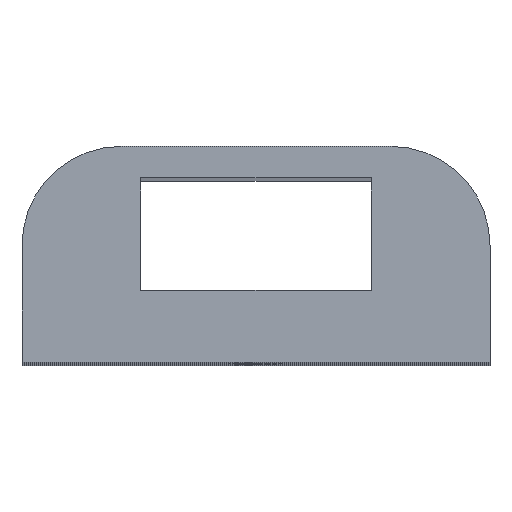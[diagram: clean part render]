
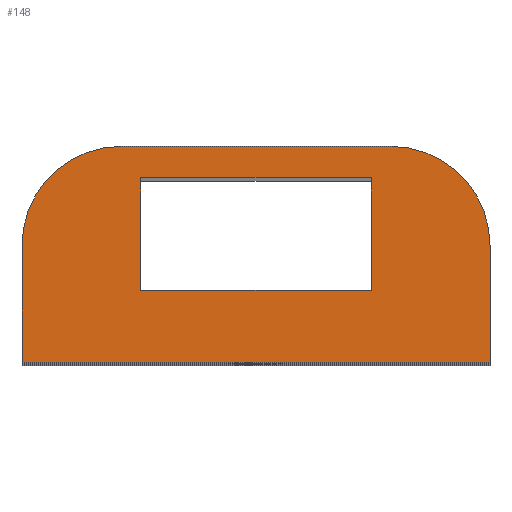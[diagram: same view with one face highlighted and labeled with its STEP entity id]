
A CAD part, top view. The second image highlights one B-rep face of the part: STEP entity #148.
In plain terms, the highlighted planar face has unit normal (0, 0, 1).
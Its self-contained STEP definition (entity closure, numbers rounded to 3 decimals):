
#148=ADVANCED_FACE('',(#515,#517),#519,.F.);
#515=FACE_BOUND('',#516,.T.);
#516=EDGE_LOOP('',(#850,#851,#852,#853,#854,#855));
#517=FACE_BOUND('',#518,.T.);
#518=EDGE_LOOP('',(#856,#857,#858,#859));
#519=PLANE('',#520);
#520=AXIS2_PLACEMENT_3D('',#521,#522,#523);
#521=CARTESIAN_POINT('',(-52.,22.,218.));
#522=DIRECTION('',(0.,0.,-1.));
#523=DIRECTION('',(1.,0.,0.));
#850=ORIENTED_EDGE('',*,*,#1032,.F.);
#851=ORIENTED_EDGE('',*,*,#980,.F.);
#852=ORIENTED_EDGE('',*,*,#1008,.F.);
#853=ORIENTED_EDGE('',*,*,#1002,.F.);
#854=ORIENTED_EDGE('',*,*,#998,.F.);
#855=ORIENTED_EDGE('',*,*,#1005,.F.);
#856=ORIENTED_EDGE('',*,*,#996,.F.);
#857=ORIENTED_EDGE('',*,*,#992,.F.);
#858=ORIENTED_EDGE('',*,*,#989,.F.);
#859=ORIENTED_EDGE('',*,*,#984,.F.);
#980=EDGE_CURVE('',#1088,#1089,#1090,.F.);
#984=EDGE_CURVE('',#1096,#1097,#1098,.F.);
#989=EDGE_CURVE('',#1097,#1106,#1107,.T.);
#992=EDGE_CURVE('',#1106,#1111,#1112,.F.);
#996=EDGE_CURVE('',#1111,#1096,#1118,.F.);
#998=EDGE_CURVE('',#1120,#1121,#1122,.F.);
#1002=EDGE_CURVE('',#1121,#1128,#1129,.F.);
#1005=EDGE_CURVE('',#1133,#1120,#1134,.F.);
#1008=EDGE_CURVE('',#1128,#1088,#1138,.F.);
#1032=EDGE_CURVE('',#1089,#1133,#1184,.F.);
#1088=VERTEX_POINT('',#1270);
#1089=VERTEX_POINT('',#1271);
#1090=LINE('',#1272,#1273);
#1096=VERTEX_POINT('',#1286);
#1097=VERTEX_POINT('',#1287);
#1098=LINE('',#1288,#1289);
#1106=VERTEX_POINT('',#1306);
#1107=LINE('',#1307,#1308);
#1111=VERTEX_POINT('',#1317);
#1112=LINE('',#1318,#1319);
#1118=LINE('',#1332,#1333);
#1120=VERTEX_POINT('',#1338);
#1121=VERTEX_POINT('',#1339);
#1122=LINE('',#1340,#1341);
#1128=VERTEX_POINT('',#1354);
#1129=CIRCLE('',#1355,11.);
#1133=VERTEX_POINT('',#1367);
#1134=CIRCLE('',#1368,11.);
#1138=LINE('',#1380,#1381);
#1184=LINE('',#1484,#1485);
#1270=CARTESIAN_POINT('',(0.,-8.,218.));
#1271=CARTESIAN_POINT('',(-52.,-8.,218.));
#1272=CARTESIAN_POINT('',(-52.,-8.,218.));
#1273=VECTOR('',#1274,1.);
#1274=DIRECTION('',(1.,0.,0.));
#1286=CARTESIAN_POINT('',(-38.8,12.5,218.));
#1287=CARTESIAN_POINT('',(-38.8,0.,218.));
#1288=CARTESIAN_POINT('',(-38.8,0.,218.));
#1289=VECTOR('',#1290,1.);
#1290=DIRECTION('',(0.,1.,0.));
#1306=CARTESIAN_POINT('',(-13.2,0.,218.));
#1307=CARTESIAN_POINT('',(-38.8,0.,218.));
#1308=VECTOR('',#1309,1.);
#1309=DIRECTION('',(1.,0.,0.));
#1317=CARTESIAN_POINT('',(-13.2,12.5,218.));
#1318=CARTESIAN_POINT('',(-13.2,12.5,218.));
#1319=VECTOR('',#1320,1.);
#1320=DIRECTION('',(0.,-1.,0.));
#1332=CARTESIAN_POINT('',(-38.8,12.5,218.));
#1333=VECTOR('',#1334,1.);
#1334=DIRECTION('',(1.,0.,0.));
#1338=CARTESIAN_POINT('',(-41.,16.,218.));
#1339=CARTESIAN_POINT('',(-11.,16.,218.));
#1340=CARTESIAN_POINT('',(-11.,16.,218.));
#1341=VECTOR('',#1342,1.);
#1342=DIRECTION('',(-1.,0.,0.));
#1354=CARTESIAN_POINT('',(0.,5.,218.));
#1355=AXIS2_PLACEMENT_3D('',#1356,#1357,#1358);
#1356=CARTESIAN_POINT('',(-11.,5.,218.));
#1357=DIRECTION('',(0.,0.,1.));
#1358=DIRECTION('',(1.,0.,0.));
#1367=CARTESIAN_POINT('',(-52.,5.,218.));
#1368=AXIS2_PLACEMENT_3D('',#1369,#1370,#1371);
#1369=CARTESIAN_POINT('',(-41.,5.,218.));
#1370=DIRECTION('',(0.,-0.,1.));
#1371=DIRECTION('',(0.,1.,0.));
#1380=CARTESIAN_POINT('',(0.,-8.,218.));
#1381=VECTOR('',#1382,1.);
#1382=DIRECTION('',(0.,1.,0.));
#1484=CARTESIAN_POINT('',(-52.,5.,218.));
#1485=VECTOR('',#1486,1.);
#1486=DIRECTION('',(0.,-1.,0.));
